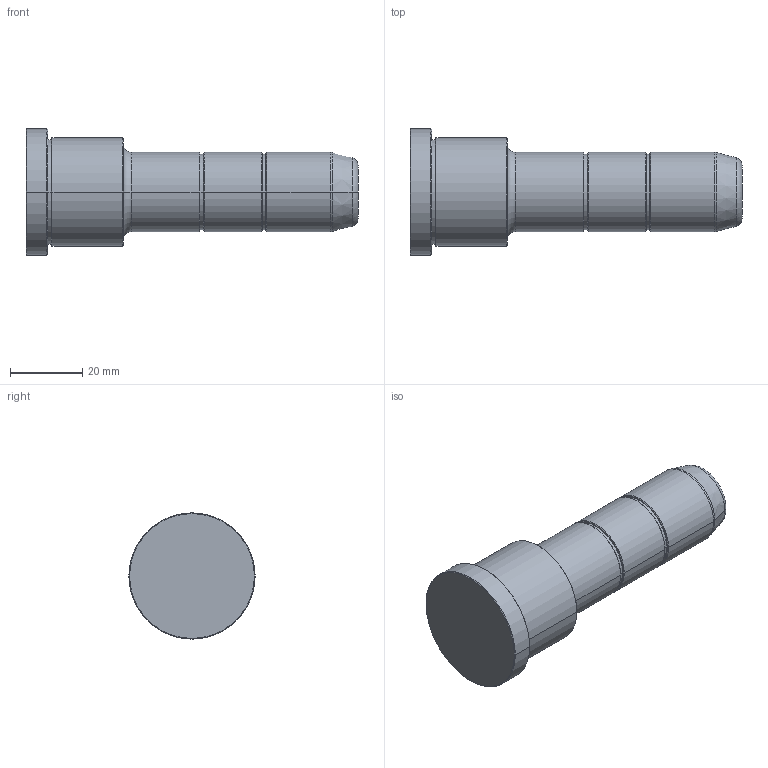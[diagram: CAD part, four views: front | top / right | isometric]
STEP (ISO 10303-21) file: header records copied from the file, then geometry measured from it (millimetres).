
FILE_DESCRIPTION (( 'STEP AP214' ), '1' );
FILE_NAME ('R01_027x22x065.STEP', '2015-03-05T14:04:15', ( 'TGL' ), ( '' ), 'SwSTEP 2.0', 'SolidWorks 2011', '' );
FILE_SCHEMA (( 'AUTOMOTIVE_DESIGN' ));
Length unit declared in the file: millimetre
Products named in the file (1): R01_027x22x065
Bounding box: 92 x 35 x 35 mm (x, y, z)
Volume: 44774.2 mm3; surface area: 8947.7 mm2
Topology: 1 solids, 1 shells, 49 faces, 96 edges, 56 vertices
Faces by surface type: cone 18, cylinder 16, plane 9, torus 6
Entity records: 1426 total; most frequent: DIRECTION 258, CARTESIAN_POINT 202, ORIENTED_EDGE 192, AXIS2_PLACEMENT_3D 112, EDGE_CURVE 96, CIRCLE 62, VERTEX_POINT 56, EDGE_LOOP 56
